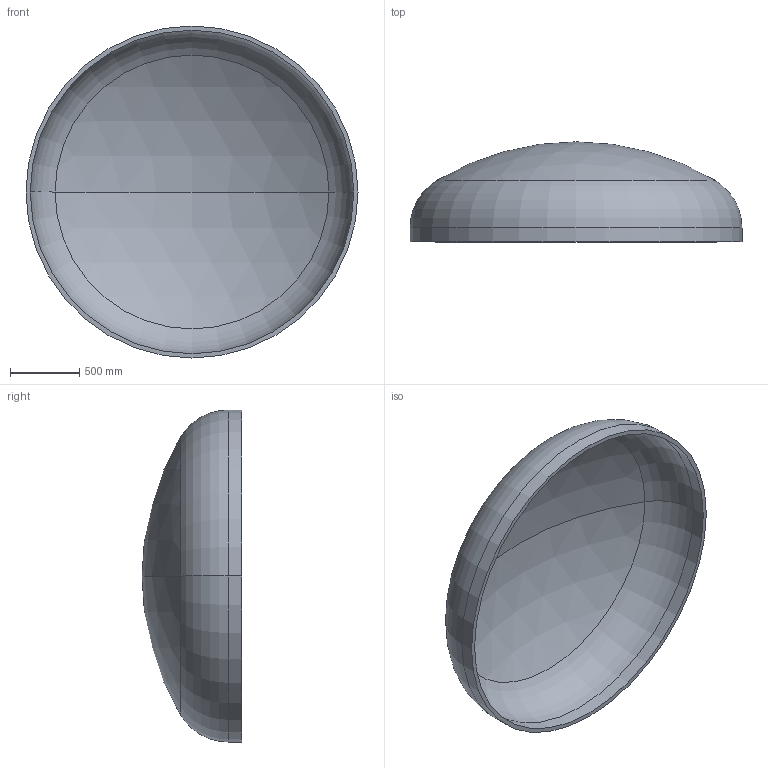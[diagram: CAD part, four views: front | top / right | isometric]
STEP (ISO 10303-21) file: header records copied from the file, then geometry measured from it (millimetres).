
FILE_DESCRIPTION (( 'STEP AP203' ), '1' );
FILE_NAME ('DIN 28013 Korbbogenform_-_Boden DIN 28013 - 2400 x 100 - I - s=31.step', '2016-07-01T15:15:56', ( '' ), ( '' ), 'SwSTEP 2.0', 'SolidWorks 2013', '' );
FILE_SCHEMA (( 'CONFIG_CONTROL_DESIGN' ));
Length unit declared in the file: millimetre
Products named in the file (1): DIN 28013 Korbbogenform_-_Boden DIN 28013 - 2400 x 100 - I - s=31
Bounding box: 2400 x 722.81 x 2400 mm (x, y, z)
Volume: 214055561.5 mm3; surface area: 14042759.5 mm2
Topology: 1 solids, 1 shells, 13 faces, 24 edges, 14 vertices
Faces by surface type: torus 4, cylinder 4, sphere 4, plane 1
Entity records: 407 total; most frequent: DIRECTION 72, CARTESIAN_POINT 52, ORIENTED_EDGE 48, AXIS2_PLACEMENT_3D 34, EDGE_CURVE 24, CIRCLE 20, VERTEX_POINT 14, EDGE_LOOP 14
